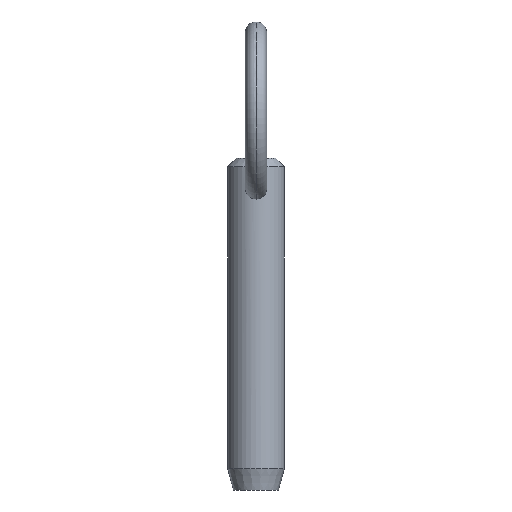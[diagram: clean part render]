
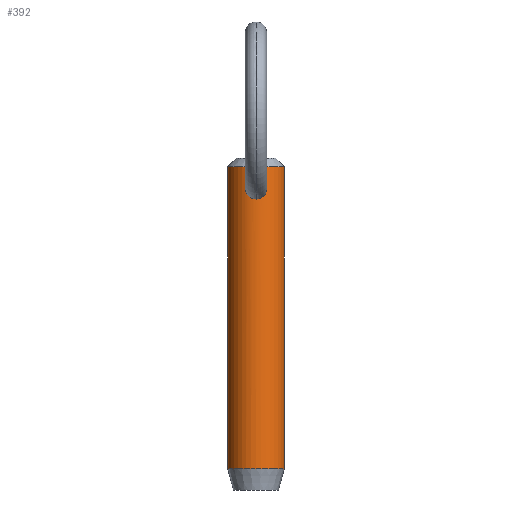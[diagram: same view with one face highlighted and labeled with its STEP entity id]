
A CAD part, front view. The second image highlights one B-rep face of the part: STEP entity #392.
In plain terms, the highlighted cylindrical face has radius 3.965 mm (diameter 7.93 mm), a partial arc.
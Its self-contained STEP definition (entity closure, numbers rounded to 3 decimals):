
#1 = VERTEX_POINT ( 'NONE', #511 ) ;
#11 = EDGE_CURVE ( 'NONE', #314, #391, #69, .T. ) ;
#24 = CARTESIAN_POINT ( 'NONE',  ( -1.379, -3.718, 32.003 ) ) ;
#26 = CARTESIAN_POINT ( 'NONE',  ( -3.965, 0., -6.52 ) ) ;
#29 = CARTESIAN_POINT ( 'NONE',  ( -1.48, -3.679, 32.289 ) ) ;
#34 = CARTESIAN_POINT ( 'NONE',  ( 1.291, -3.75, 33.483 ) ) ;
#35 = CARTESIAN_POINT ( 'NONE',  ( 0., -3.965, 34.347 ) ) ;
#36 = CARTESIAN_POINT ( 'NONE',  ( 0.404, -3.946, 34.282 ) ) ;
#39 = CARTESIAN_POINT ( 'NONE',  ( 0., -3.965, 31.135 ) ) ;
#40 = EDGE_CURVE ( 'NONE', #444, #1, #418, .T. ) ;
#42 = CYLINDRICAL_SURFACE ( 'NONE', #199, 3.965 ) ;
#59 = ORIENTED_EDGE ( 'NONE', *, *, #176, .T. ) ;
#63 = DIRECTION ( 'NONE',  ( 0., 0., -1. ) ) ;
#66 = CARTESIAN_POINT ( 'NONE',  ( 1.503, -3.669, 32.599 ) ) ;
#69 = B_SPLINE_CURVE_WITH_KNOTS ( 'NONE', 3,
 ( #35, #188, #70, #36, #194, #467, #236, #276, #34, #510, #277, #311, #503, #66, #111, #348, #480, #283, #443, #393, #161, #284, #246, #81, #116, #39 ),
 .UNSPECIFIED., .F., .F.,
 ( 4, 2, 2, 2, 2, 2, 2, 2, 2, 2, 2, 2, 4 ),
 ( 0.004, 0.005, 0.005, 0.005, 0.006, 0.006, 0.007, 0.007, 0.007, 0.008, 0.008, 0.008, 0.009 ),
 .UNSPECIFIED. ) ;
#70 = CARTESIAN_POINT ( 'NONE',  ( 0.205, -3.961, 34.334 ) ) ;
#73 = ORIENTED_EDGE ( 'NONE', *, *, #11, .T. ) ;
#76 = B_SPLINE_CURVE_WITH_KNOTS ( 'NONE', 3,
 ( #227, #226, #307, #190, #424, #110, #502, #222, #24, #29, #427, #462, #309, #429, #302, #184, #147, #388, #301, #230, #504, #463 ),
 .UNSPECIFIED., .F., .F.,
 ( 4, 2, 2, 2, 2, 2, 2, 2, 2, 2, 4 ),
 ( 0.009, 0.01, 0.01, 0.011, 0.011, 0.012, 0.012, 0.013, 0.013, 0.014, 0.014 ),
 .UNSPECIFIED. ) ;
#81 = CARTESIAN_POINT ( 'NONE',  ( 0.409, -3.948, 31.174 ) ) ;
#83 = VECTOR ( 'NONE', #445, 1000. ) ;
#86 = DIRECTION ( 'NONE',  ( -1., 0., 0. ) ) ;
#95 = CIRCLE ( 'NONE', #128, 3.965 ) ;
#107 = CARTESIAN_POINT ( 'NONE',  ( 3.965, 0., 35.65 ) ) ;
#110 = CARTESIAN_POINT ( 'NONE',  ( -1.168, -3.79, 31.659 ) ) ;
#111 = CARTESIAN_POINT ( 'NONE',  ( 1.499, -3.671, 32.497 ) ) ;
#113 = LINE ( 'NONE', #127, #83 ) ;
#116 = CARTESIAN_POINT ( 'NONE',  ( 0.205, -3.965, 31.135 ) ) ;
#122 = FACE_OUTER_BOUND ( 'NONE', #412, .T. ) ;
#127 = CARTESIAN_POINT ( 'NONE',  ( -3.965, 0., 30.5 ) ) ;
#128 = AXIS2_PLACEMENT_3D ( 'NONE', #485, #489, #255 ) ;
#132 = EDGE_CURVE ( 'NONE', #444, #281, #95, .T. ) ;
#147 = CARTESIAN_POINT ( 'NONE',  ( -0.77, -3.894, 34.1 ) ) ;
#148 = ORIENTED_EDGE ( 'NONE', *, *, #151, .T. ) ;
#151 = EDGE_CURVE ( 'NONE', #281, #479, #113, .T. ) ;
#155 = CARTESIAN_POINT ( 'NONE',  ( 3.965, 0., 30.5 ) ) ;
#161 = CARTESIAN_POINT ( 'NONE',  ( 0.949, -3.851, 31.449 ) ) ;
#173 = CIRCLE ( 'NONE', #189, 3.965 ) ;
#176 = EDGE_CURVE ( 'NONE', #479, #1, #173, .T. ) ;
#184 = CARTESIAN_POINT ( 'NONE',  ( -0.925, -3.858, 33.968 ) ) ;
#188 = CARTESIAN_POINT ( 'NONE',  ( 0.102, -3.965, 34.347 ) ) ;
#189 = AXIS2_PLACEMENT_3D ( 'NONE', #257, #291, #86 ) ;
#190 = CARTESIAN_POINT ( 'NONE',  ( -0.788, -3.891, 31.328 ) ) ;
#194 = CARTESIAN_POINT ( 'NONE',  ( 0.498, -3.935, 34.244 ) ) ;
#199 = AXIS2_PLACEMENT_3D ( 'NONE', #499, #63, #272 ) ;
#222 = CARTESIAN_POINT ( 'NONE',  ( -1.335, -3.734, 31.91 ) ) ;
#226 = CARTESIAN_POINT ( 'NONE',  ( -0.205, -3.965, 31.135 ) ) ;
#227 = CARTESIAN_POINT ( 'NONE',  ( 0., -3.965, 31.135 ) ) ;
#230 = CARTESIAN_POINT ( 'NONE',  ( -0.206, -3.961, 34.334 ) ) ;
#232 = EDGE_LOOP ( 'NONE', ( #73, #233 ) ) ;
#233 = ORIENTED_EDGE ( 'NONE', *, *, #394, .T. ) ;
#236 = CARTESIAN_POINT ( 'NONE',  ( 0.925, -3.858, 33.968 ) ) ;
#246 = CARTESIAN_POINT ( 'NONE',  ( 0.693, -3.905, 31.29 ) ) ;
#255 = DIRECTION ( 'NONE',  ( 1., 0., 0. ) ) ;
#257 = CARTESIAN_POINT ( 'NONE',  ( 0., 0., -6.52 ) ) ;
#272 = DIRECTION ( 'NONE',  ( -1., 0., 0. ) ) ;
#276 = CARTESIAN_POINT ( 'NONE',  ( 1.186, -3.786, 33.659 ) ) ;
#277 = CARTESIAN_POINT ( 'NONE',  ( 1.434, -3.697, 33.105 ) ) ;
#281 = VERTEX_POINT ( 'NONE', #493 ) ;
#283 = CARTESIAN_POINT ( 'NONE',  ( 1.346, -3.73, 31.908 ) ) ;
#284 = CARTESIAN_POINT ( 'NONE',  ( 0.782, -3.888, 31.337 ) ) ;
#291 = DIRECTION ( 'NONE',  ( 0., 0., 1. ) ) ;
#298 = ORIENTED_EDGE ( 'NONE', *, *, #132, .T. ) ;
#301 = CARTESIAN_POINT ( 'NONE',  ( -0.403, -3.946, 34.282 ) ) ;
#302 = CARTESIAN_POINT ( 'NONE',  ( -1.186, -3.786, 33.66 ) ) ;
#307 = CARTESIAN_POINT ( 'NONE',  ( -0.41, -3.948, 31.174 ) ) ;
#309 = CARTESIAN_POINT ( 'NONE',  ( -1.441, -3.695, 33.108 ) ) ;
#311 = CARTESIAN_POINT ( 'NONE',  ( 1.479, -3.679, 32.907 ) ) ;
#314 = VERTEX_POINT ( 'NONE', #451 ) ;
#321 = ORIENTED_EDGE ( 'NONE', *, *, #40, .F. ) ;
#342 = CARTESIAN_POINT ( 'NONE',  ( 0., -3.965, 31.135 ) ) ;
#348 = CARTESIAN_POINT ( 'NONE',  ( 1.471, -3.682, 32.294 ) ) ;
#388 = CARTESIAN_POINT ( 'NONE',  ( -0.498, -3.935, 34.244 ) ) ;
#391 = VERTEX_POINT ( 'NONE', #342 ) ;
#392 = ADVANCED_FACE ( 'NONE', ( #122, #431 ), #42, .T. ) ;
#393 = CARTESIAN_POINT ( 'NONE',  ( 1.028, -3.83, 31.515 ) ) ;
#394 = EDGE_CURVE ( 'NONE', #391, #314, #76, .T. ) ;
#412 = EDGE_LOOP ( 'NONE', ( #321, #298, #148, #59 ) ) ;
#418 = LINE ( 'NONE', #155, #509 ) ;
#424 = CARTESIAN_POINT ( 'NONE',  ( -0.957, -3.85, 31.441 ) ) ;
#427 = CARTESIAN_POINT ( 'NONE',  ( -1.508, -3.667, 32.497 ) ) ;
#429 = CARTESIAN_POINT ( 'NONE',  ( -1.29, -3.75, 33.485 ) ) ;
#431 = FACE_BOUND ( 'NONE', #232, .T. ) ;
#443 = CARTESIAN_POINT ( 'NONE',  ( 1.237, -3.77, 31.731 ) ) ;
#444 = VERTEX_POINT ( 'NONE', #107 ) ;
#445 = DIRECTION ( 'NONE',  ( 0., 0., -1. ) ) ;
#451 = CARTESIAN_POINT ( 'NONE',  ( 0., -3.965, 34.347 ) ) ;
#462 = CARTESIAN_POINT ( 'NONE',  ( -1.488, -3.675, 32.905 ) ) ;
#463 = CARTESIAN_POINT ( 'NONE',  ( 0., -3.965, 34.347 ) ) ;
#467 = CARTESIAN_POINT ( 'NONE',  ( 0.77, -3.894, 34.1 ) ) ;
#479 = VERTEX_POINT ( 'NONE', #26 ) ;
#480 = CARTESIAN_POINT ( 'NONE',  ( 1.447, -3.692, 32.193 ) ) ;
#481 = DIRECTION ( 'NONE',  ( 0., 0., -1. ) ) ;
#485 = CARTESIAN_POINT ( 'NONE',  ( 0., 0., 35.65 ) ) ;
#489 = DIRECTION ( 'NONE',  ( 0., 0., -1. ) ) ;
#493 = CARTESIAN_POINT ( 'NONE',  ( -3.965, 0., 35.65 ) ) ;
#499 = CARTESIAN_POINT ( 'NONE',  ( 0., 0., 30.5 ) ) ;
#502 = CARTESIAN_POINT ( 'NONE',  ( -1.229, -3.77, 31.739 ) ) ;
#503 = CARTESIAN_POINT ( 'NONE',  ( 1.493, -3.673, 32.804 ) ) ;
#504 = CARTESIAN_POINT ( 'NONE',  ( -0.102, -3.965, 34.347 ) ) ;
#509 = VECTOR ( 'NONE', #481, 1000. ) ;
#510 = CARTESIAN_POINT ( 'NONE',  ( 1.404, -3.708, 33.201 ) ) ;
#511 = CARTESIAN_POINT ( 'NONE',  ( 3.965, 0., -6.52 ) ) ;
